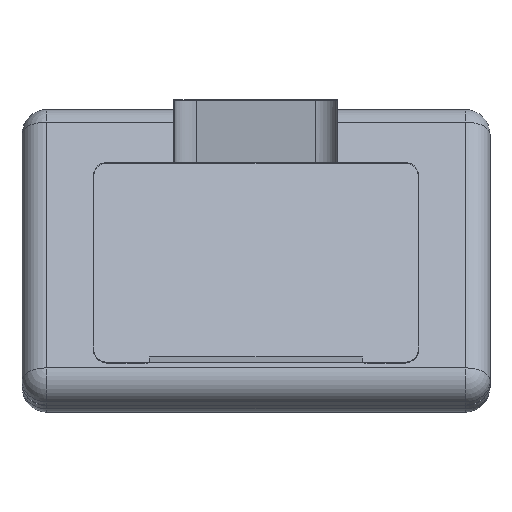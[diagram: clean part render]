
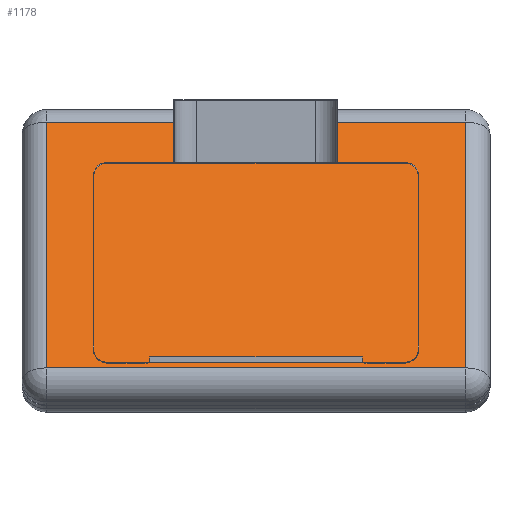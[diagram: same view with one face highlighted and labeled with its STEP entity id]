
A CAD part, left-side view. The second image highlights one B-rep face of the part: STEP entity #1178.
In plain terms, the highlighted planar face has unit normal (-0.866, 0, 0.5).
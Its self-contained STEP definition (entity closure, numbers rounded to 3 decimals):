
#1139=CARTESIAN_POINT('Axis2P3D Location',(304.004,34.585,28.365)) ;
#1144=CARTESIAN_POINT('Line Origine',(304.004,-300.415,28.365)) ;
#1148=CARTESIAN_POINT('Vertex',(190.254,-300.415,-168.655)) ;
#1150=CARTESIAN_POINT('Vertex',(417.754,-300.415,225.386)) ;
#1153=CARTESIAN_POINT('Line Origine',(417.754,34.585,225.386)) ;
#1157=CARTESIAN_POINT('Vertex',(417.754,369.585,225.386)) ;
#1160=CARTESIAN_POINT('Line Origine',(304.004,369.585,28.365)) ;
#1164=CARTESIAN_POINT('Vertex',(190.254,369.585,-168.655)) ;
#1167=CARTESIAN_POINT('Line Origine',(190.254,34.585,-168.655)) ;
#1140=DIRECTION('Axis2P3D Direction',(-0.866,0.,0.5)) ;
#1141=DIRECTION('Axis2P3D XDirection',(0.,-1.,0.)) ;
#1145=DIRECTION('Vector Direction',(-0.5,0.,-0.866)) ;
#1154=DIRECTION('Vector Direction',(0.,-1.,0.)) ;
#1161=DIRECTION('Vector Direction',(0.5,0.,0.866)) ;
#1168=DIRECTION('Vector Direction',(0.,1.,0.)) ;
#1142=AXIS2_PLACEMENT_3D('Plane Axis2P3D',#1139,#1140,#1141) ;
#1173=ORIENTED_EDGE('',*,*,#1152,.T.) ;
#1174=ORIENTED_EDGE('',*,*,#1159,.T.) ;
#1175=ORIENTED_EDGE('',*,*,#1166,.T.) ;
#1176=ORIENTED_EDGE('',*,*,#1171,.T.) ;
#1146=VECTOR('Line Direction',#1145,1.) ;
#1155=VECTOR('Line Direction',#1154,1.) ;
#1162=VECTOR('Line Direction',#1161,1.) ;
#1169=VECTOR('Line Direction',#1168,1.) ;
#1178=ADVANCED_FACE('Guscio',(#1177),#1143,.T.) ;
#1152=EDGE_CURVE('',#1149,#1151,#1147,.F.) ;
#1159=EDGE_CURVE('',#1151,#1158,#1156,.F.) ;
#1166=EDGE_CURVE('',#1158,#1165,#1163,.F.) ;
#1171=EDGE_CURVE('',#1165,#1149,#1170,.F.) ;
#1172=EDGE_LOOP('',(#1173,#1174,#1175,#1176)) ;
#1177=FACE_OUTER_BOUND('',#1172,.T.) ;
#1147=LINE('Line',#1144,#1146) ;
#1156=LINE('Line',#1153,#1155) ;
#1163=LINE('Line',#1160,#1162) ;
#1170=LINE('Line',#1167,#1169) ;
#1143=PLANE('',#1142) ;
#1149=VERTEX_POINT('',#1148) ;
#1151=VERTEX_POINT('',#1150) ;
#1158=VERTEX_POINT('',#1157) ;
#1165=VERTEX_POINT('',#1164) ;
